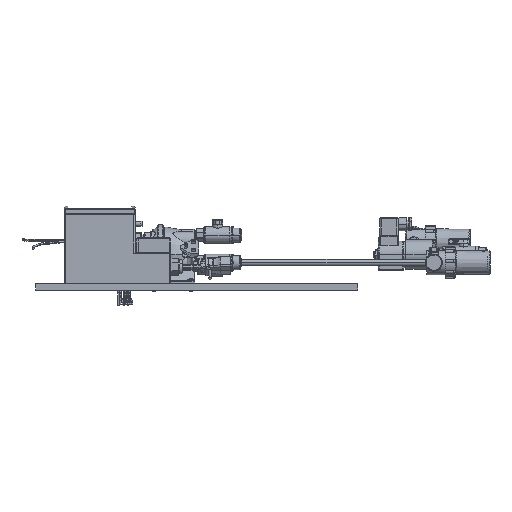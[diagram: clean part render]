
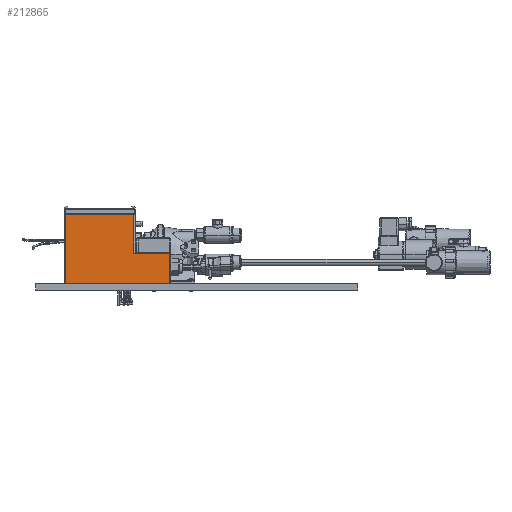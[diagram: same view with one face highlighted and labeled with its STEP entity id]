
A CAD part, left-side view. The second image highlights one B-rep face of the part: STEP entity #212865.
In plain terms, the highlighted planar face has unit normal (-1, 0, 0).
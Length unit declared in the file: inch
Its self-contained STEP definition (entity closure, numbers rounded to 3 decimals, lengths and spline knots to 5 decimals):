
#555 = AXIS2_PLACEMENT_3D ( 'NONE', #71182, #120381, #118222 ) ;
#4593 = VECTOR ( 'NONE', #201834, 39.37008 ) ;
#10847 = LINE ( 'NONE', #29400, #58283 ) ;
#13439 = ORIENTED_EDGE ( 'NONE', *, *, #56292, .T. ) ;
#22707 = ORIENTED_EDGE ( 'NONE', *, *, #206228, .T. ) ;
#23192 = LINE ( 'NONE', #54874, #144523 ) ;
#26169 = DIRECTION ( 'NONE',  ( 0., 0., 1. ) ) ;
#29400 = CARTESIAN_POINT ( 'NONE',  ( 1.75044, -5.774, 4.2 ) ) ;
#36768 = EDGE_LOOP ( 'NONE', ( #185648, #60435, #201700, #189261, #22707, #13439 ) ) ;
#42220 = CARTESIAN_POINT ( 'NONE',  ( 1.75044, -1.774, 0. ) ) ;
#46928 = VERTEX_POINT ( 'NONE', #102073 ) ;
#54874 = CARTESIAN_POINT ( 'NONE',  ( 1.75044, -1.674, 0. ) ) ;
#56010 = VECTOR ( 'NONE', #192716, 39.37008 ) ;
#56292 = EDGE_CURVE ( 'Defeatured_0_122+Defeatured_0_133+Defeatured_0_126+Defeatured_0_125', #76827, #168080, #10847, .T. ) ;
#58283 = VECTOR ( 'NONE', #26169, 39.37008 ) ;
#60435 = ORIENTED_EDGE ( 'NONE', *, *, #114811, .T. ) ;
#71182 = CARTESIAN_POINT ( 'NONE',  ( 1.75044, -1.674, 4.2 ) ) ;
#76827 = VERTEX_POINT ( 'NONE', #176008 ) ;
#80055 = CARTESIAN_POINT ( 'NONE',  ( 1.75044, -7.874, 0. ) ) ;
#97988 = CARTESIAN_POINT ( 'NONE',  ( 1.75044, -1.674, 4.1 ) ) ;
#98678 = VERTEX_POINT ( 'NONE', #179510 ) ;
#99880 = LINE ( 'NONE', #117350, #128280 ) ;
#101417 = CARTESIAN_POINT ( 'NONE',  ( 1.75044, -5.874, 1.8 ) ) ;
#102073 = CARTESIAN_POINT ( 'NONE',  ( 1.75044, -1.774, 4.1 ) ) ;
#114811 = EDGE_CURVE ( 'Defeatured_0_122+Defeatured_0_130+Defeatured_0_125+Defeatured_0_141', #46928, #190890, #99880, .T. ) ;
#117350 = CARTESIAN_POINT ( 'NONE',  ( 1.75044, -1.774, 4.2 ) ) ;
#118222 = DIRECTION ( 'NONE',  ( 0., 1., 0. ) ) ;
#119994 = LINE ( 'NONE', #101417, #4593 ) ;
#120381 = DIRECTION ( 'NONE',  ( 1., 0., 0. ) ) ;
#122615 = CARTESIAN_POINT ( 'NONE',  ( 1.75044, -5.774, 4.1 ) ) ;
#123572 = VECTOR ( 'NONE', #130800, 39.37008 ) ;
#125066 = LINE ( 'NONE', #126143, #56010 ) ;
#126143 = CARTESIAN_POINT ( 'NONE',  ( 1.75044, -7.874, 4.2 ) ) ;
#128280 = VECTOR ( 'NONE', #131610, 39.37008 ) ;
#130800 = DIRECTION ( 'NONE',  ( 0., -1., 0. ) ) ;
#131610 = DIRECTION ( 'NONE',  ( 0., 0., -1. ) ) ;
#133356 = EDGE_CURVE ( 'Defeatured_0_122+Defeatured_0_141+Defeatured_0_130+Defeatured_0_134', #190890, #140424, #23192, .T. ) ;
#136786 = FACE_OUTER_BOUND ( 'NONE', #36768, .T. ) ;
#140424 = VERTEX_POINT ( 'NONE', #80055 ) ;
#144523 = VECTOR ( 'NONE', #165507, 39.37008 ) ;
#165507 = DIRECTION ( 'NONE',  ( 0., -1., 0. ) ) ;
#168080 = VERTEX_POINT ( 'NONE', #122615 ) ;
#176008 = CARTESIAN_POINT ( 'NONE',  ( 1.75044, -5.774, 1.8 ) ) ;
#179510 = CARTESIAN_POINT ( 'NONE',  ( 1.75044, -7.874, 1.8 ) ) ;
#181311 = EDGE_CURVE ( 'Defeatured_0_122+Defeatured_0_134+Defeatured_0_141+Defeatured_0_126', #140424, #98678, #125066, .T. ) ;
#185648 = ORIENTED_EDGE ( 'NONE', *, *, #195111, .F. ) ;
#189261 = ORIENTED_EDGE ( 'NONE', *, *, #181311, .T. ) ;
#190890 = VERTEX_POINT ( 'NONE', #42220 ) ;
#192716 = DIRECTION ( 'NONE',  ( 0., 0., 1. ) ) ;
#195111 = EDGE_CURVE ( 'Defeatured_0_125+Defeatured_0_122+Defeatured_0_130+Defeatured_0_133', #46928, #168080, #213677, .T. ) ;
#201152 = PLANE ( 'NONE',  #555 ) ;
#201700 = ORIENTED_EDGE ( 'NONE', *, *, #133356, .T. ) ;
#201834 = DIRECTION ( 'NONE',  ( 0., 1., 0. ) ) ;
#206228 = EDGE_CURVE ( 'Defeatured_0_122+Defeatured_0_126+Defeatured_0_134+Defeatured_0_133', #98678, #76827, #119994, .T. ) ;
#212865 = ADVANCED_FACE ( 'Defeatured_0_122', ( #136786 ), #201152, .F. ) ;
#213677 = LINE ( 'NONE', #97988, #123572 ) ;
